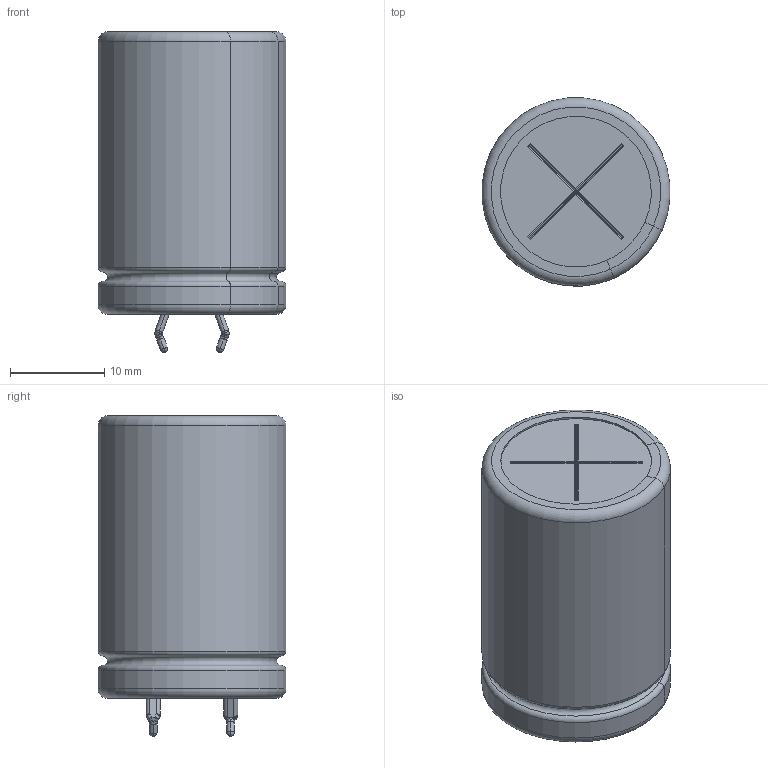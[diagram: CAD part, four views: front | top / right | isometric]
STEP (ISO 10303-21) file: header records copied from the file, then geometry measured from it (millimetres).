
FILE_DESCRIPTION(/* description */ (''),/* implementation_level */ '2;1');
FILE_NAME(/* name */ '20x30_Snap.stp',/* time_stamp */ '2017-09-11T13:44:12+09:00',/* author */ (''),/* organization */ (''),/* preprocessor_version */ 'ST-DEVELOPER v16',/* originating_system */ 'SIEMENS PLM Software NX 11.0',/* authorisation */ '');
FILE_SCHEMA (('AUTOMOTIVE_DESIGN { 1 0 10303 214 3 1 1 1 }'));
Length unit declared in the file: millimetre
Products named in the file (1): 20x30_Snap_0
Bounding box: 19.94 x 19.94 x 34.02 mm (x, y, z)
Volume: 9269 mm3; surface area: 6824.7 mm2
Topology: 5 solids, 5 shells, 208 faces, 523 edges, 310 vertices
Faces by surface type: cylinder 76, plane 75, torus 25, sphere 20, bspline 12
Full cylindrical faces by diameter (mm): 4 x2, 19.6 x2
Entity records: 6789 total; most frequent: CARTESIAN_POINT 1265, DIRECTION 1128, ORIENTED_EDGE 988, EDGE_CURVE 494, AXIS2_PLACEMENT_3D 437, VERTEX_POINT 310, LINE 254, VECTOR 254
